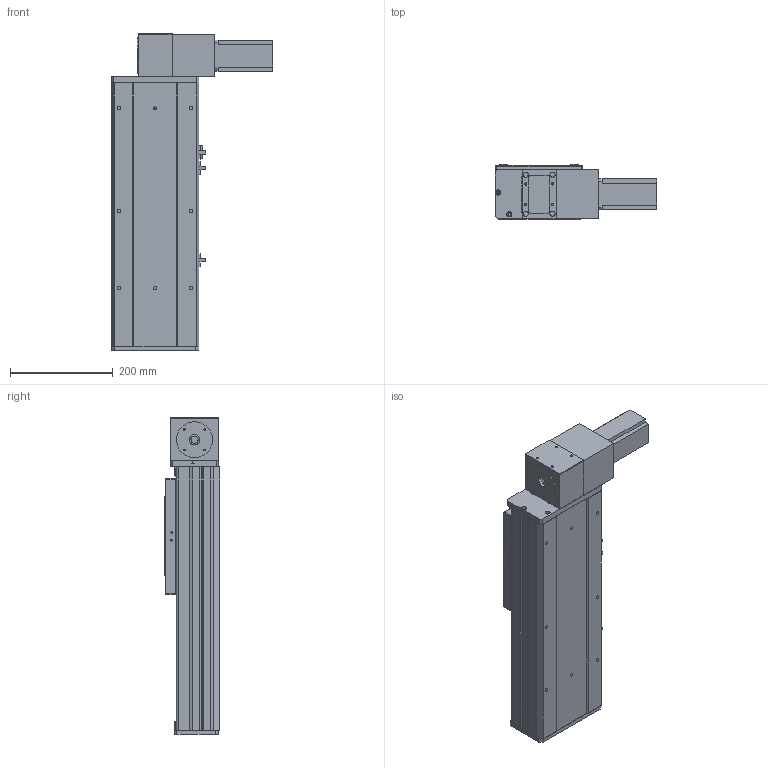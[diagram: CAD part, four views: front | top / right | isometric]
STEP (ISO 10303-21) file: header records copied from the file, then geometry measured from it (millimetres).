
FILE_DESCRIPTION (( 'STEP AP203' ), '1' );
FILE_NAME ('Y170CB-D105-S200-BM-P400W.STEP', '2020-02-20T08:04:34', ( '微软用户' ), ( '微软中国' ), 'SwSTEP 2.0', 'SolidWorks 2017', '' );
FILE_SCHEMA (( 'CONFIG_CONTROL_DESIGN' ));
Length unit declared in the file: millimetre
Products named in the file (16): Y170CB-陔俋离換覜結え---; --70CB --喘謫眊楊擘啣-; Y1埴倛裔; 70CB-耜裔啣-; 70B喘謫眊----; 70C--詩湍揤踡え-; 70CB--耜裔; 70C-雄赽釱-奻-; 0C--雄赽釱俋欶-170; B-源倛裔啣; 0B薊粣ん眊-400W--; 70CB-詩湍--; san松下电机400不带刹车----; Y170CB-D105-S200-BM-P400W; Y100-135俋离換覜ん--; 70CB-掛极-
Assembly tree (19 placements, depth 2):
  Y170CB-D105-S200-BM-P400W
    B-源倛裔啣
    san松下电机400不带刹车----
    70CB-掛极-
    --70CB --喘謫眊楊擘啣-
    70CB-耜裔啣-  x2
    70C--詩湍揤踡え-  x2
    70CB--耜裔
    70C-雄赽釱-奻-
    0C--雄赽釱俋欶-170
    70CB-詩湍--
    Y100-135俋离換覜ん--  x3
    Y170CB-陔俋离換覜結え---
    Y1埴倛裔
    70B喘謫眊----
    0B薊粣ん眊-400W--
Bounding box: 313.5 x 107 x 616 mm (x, y, z)
Volume: 3677013.8 mm3; surface area: 1168945.2 mm2
Topology: 19 solids, 19 shells, 888 faces, 2330 edges, 1544 vertices
Faces by surface type: cylinder 442, plane 422, cone 24
Entity records: 27551 total; most frequent: CARTESIAN_POINT 5086, DIRECTION 4479, ORIENTED_EDGE 4142, EDGE_CURVE 2071, AXIS2_PLACEMENT_3D 1641, VERTEX_POINT 1374, VECTOR 1197, LINE 1197
